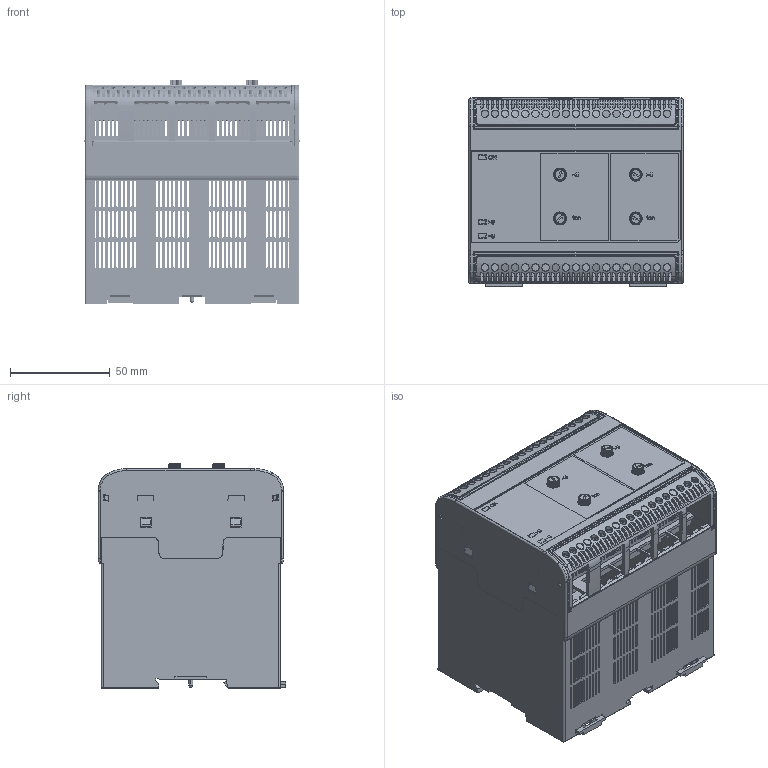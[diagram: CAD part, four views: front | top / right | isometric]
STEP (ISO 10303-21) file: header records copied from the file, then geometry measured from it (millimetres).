
FILE_DESCRIPTION (( 'STEP AP214' ), '1' );
FILE_NAME ('VMD258_1.STEP', '2014-06-27T05:37:19', ( 'User' ), ( 'Bender' ), 'SwSTEP 2.0', 'SolidWorks 2014', '' );
FILE_SCHEMA (( 'AUTOMOTIVE_DESIGN' ));
Length unit declared in the file: millimetre
Products named in the file (8): Oberteil_z152357.02-00_V26.2_VMD  =V2; VMD258_1; Z151798.03_Schieber; Klem_z152359.01-1_V3.11=V3; Klem_z152359.01-1_V4.11=V4; Unterteil_z152358.05-00_V22.3_JB4_ISO=V1; Potiknopf 9009 von ACP; Aufkleber VMD258
Assembly tree (11 placements, depth 2):
  VMD258_1
    Oberteil_z152357.02-00_V26.2_VMD  =V2
    Aufkleber VMD258
    Potiknopf 9009 von ACP  x4
    Unterteil_z152358.05-00_V22.3_JB4_ISO=V1
    Klem_z152359.01-1_V4.11=V4
    Klem_z152359.01-1_V3.11=V3
    Z151798.03_Schieber  x2
Bounding box: 108 x 94.2 x 112.52 mm (x, y, z)
Volume: 143509.4 mm3; surface area: 188105.7 mm2
Topology: 32 solids, 32 shells, 5471 faces, 15864 edges, 10333 vertices
Faces by surface type: plane 3588, cylinder 1629, cone 130, bspline 76, torus 48
Entity records: 169230 total; most frequent: CARTESIAN_POINT 43960, ORIENTED_EDGE 27794, DIRECTION 22539, EDGE_CURVE 13897, VECTOR 9407, LINE 9407, VERTEX_POINT 9111, AXIS2_PLACEMENT_3D 6566
